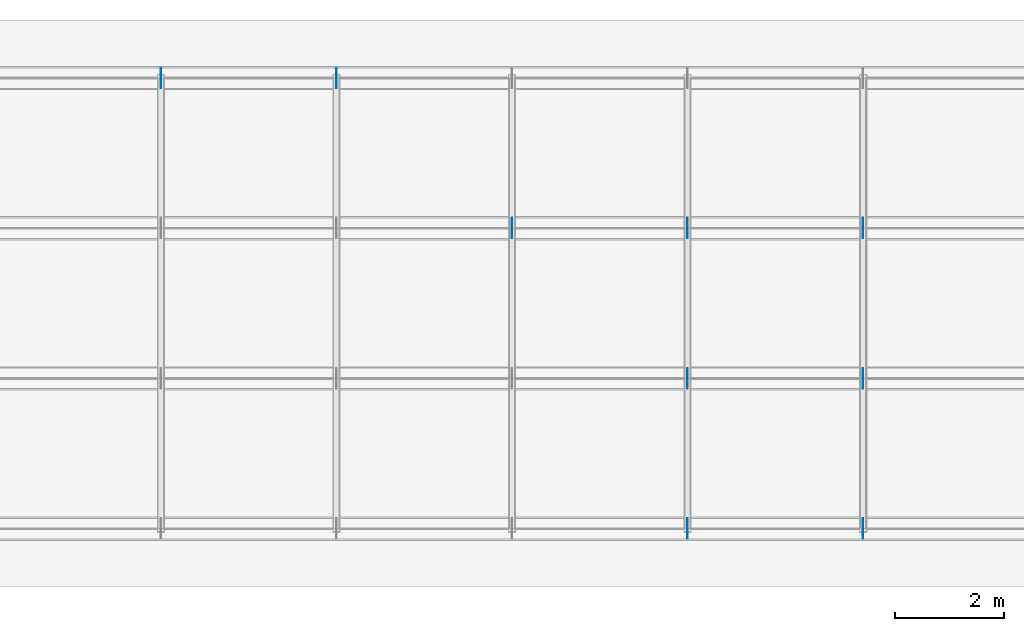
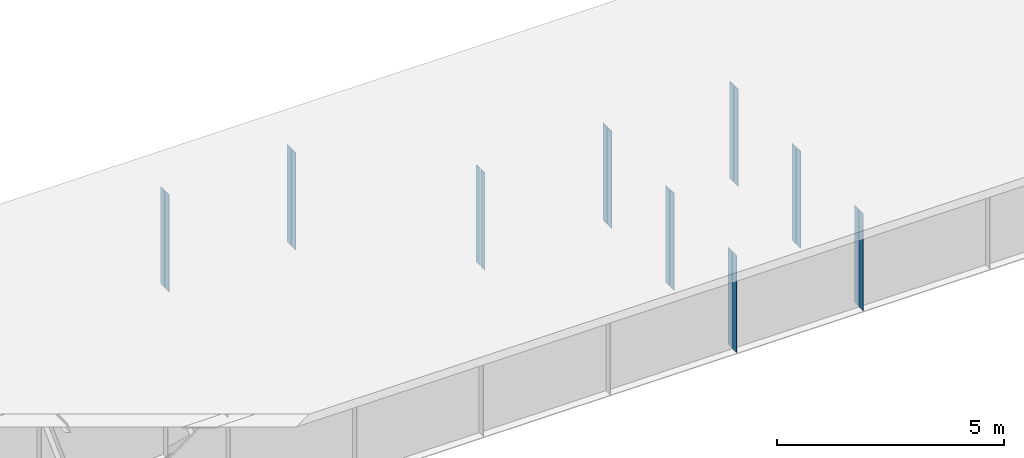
# One storey, part 10 of 13: 18 plates.
"""IFC4 building model written with IfcOpenShell, lengths in metres."""

import ifcopenshell
import ifcopenshell.guid

model = None  # the IFC model being written
_history = None  # IfcOwnerHistory: only IFC2X3 demands one
_inside = {}  # id of a spatial element -> (the spatial element, [elements in it])
_under = {}  # id of a project, library or spatial element -> (it, [spatial elements below it])
_declared = {}  # id of a project -> (the project, [libraries it declares])
_typed = {}  # id of a type object -> (the type object, [elements of that type])
_made_of = {}  # id of a material, layer set ... -> (it, [elements and type objects made of it])


def new_model(schema):
    """Start an empty IFC model of exactly this schema.

    Asked for "IFC4X3", IfcOpenShell would pick the latest addendum, in which some entities
    have other attributes; the version numbers below select the first issue.
    IFC2X3 requires an IfcOwnerHistory on every rooted entity: one is made here for all.
    """
    global model, _history
    if schema == "IFC4X3":
        model = ifcopenshell.file(schema_version=(4, 3, 0, 0))
    else:
        model = ifcopenshell.file(schema=schema)
    _inside.clear()
    _under.clear()
    _declared.clear()
    _typed.clear()
    _made_of.clear()
    _history = None
    if model.schema == "IFC2X3":
        org = make("IfcOrganization", Name="unknown")
        user = make(
            "IfcPersonAndOrganization",
            ThePerson=make("IfcPerson", FamilyName="unknown"),
            TheOrganization=org,
        )
        app = make(
            "IfcApplication",
            ApplicationDeveloper=org,
            Version="unknown",
            ApplicationFullName="unknown",
            ApplicationIdentifier="unknown",
        )
        _history = make(
            "IfcOwnerHistory",
            OwningUser=user,
            OwningApplication=app,
            ChangeAction="ADDED",
            CreationDate=0,
        )
    return model


def make(cls, **values):
    """One entity of the class cls with the attributes given. An attribute that is None is left unset."""
    return model.create_entity(
        cls, **{name: value for name, value in values.items() if value is not None}
    )


def rooted(cls, **values):
    """An entity with a GlobalId (a new one), such as an element, a storey or a relation."""
    return make(cls, GlobalId=ifcopenshell.guid.new(), OwnerHistory=_history, **values)


def si_unit(unit_type, name, prefix=None):
    """IfcSIUnit, for example si_unit("LENGTHUNIT", "METRE", prefix="MILLI")."""
    return make("IfcSIUnit", UnitType=unit_type, Prefix=prefix, Name=name)


def assignment(units):
    """IfcUnitAssignment: the units of a project."""
    return None if units is None else make("IfcUnitAssignment", Units=units)


def point(xyz):
    """IfcCartesianPoint."""
    return None if xyz is None else make("IfcCartesianPoint", Coordinates=xyz)


def direction(xyz):
    """IfcDirection."""
    return None if xyz is None else make("IfcDirection", DirectionRatios=xyz)


def frame(location, z_axis=None, x_axis=None):
    """IfcAxis2Placement3D, a coordinate frame: its origin and axes. An axis left out is left unset."""
    return make(
        "IfcAxis2Placement3D",
        Location=point(location),
        Axis=direction(z_axis),
        RefDirection=direction(x_axis),
    )


def frame_2d(location, x_axis=None):
    """IfcAxis2Placement2D, a coordinate frame in the plane: its origin and x axis."""
    return make(
        "IfcAxis2Placement2D", Location=point(location), RefDirection=direction(x_axis)
    )


def origin():
    """The frame at (0, 0, 0) with its axes left unset."""
    return frame((0.0, 0.0, 0.0))


def origin_with_axes():
    """The frame at (0, 0, 0) with the z axis (0, 0, 1) and the x axis (1, 0, 0) written out."""
    return frame((0.0, 0.0, 0.0), z_axis=(0.0, 0.0, 1.0), x_axis=(1.0, 0.0, 0.0))


def origin_2d_with_axis():
    """The frame at (0, 0) in the plane with the x axis (1, 0) written out."""
    return frame_2d((0.0, 0.0), x_axis=(1.0, 0.0))


def place(relative_to, where):
    """IfcLocalPlacement: puts the frame where relative to a parent placement (None: the world)."""
    return make(
        "IfcLocalPlacement", PlacementRelTo=relative_to, RelativePlacement=where
    )


def context(
    kind, dimensions, precision=None, world=None, true_north=None, identifier=None
):
    """IfcGeometricRepresentationContext, for example the 3D "Model" context."""
    return make(
        "IfcGeometricRepresentationContext",
        ContextIdentifier=identifier,
        ContextType=kind,
        CoordinateSpaceDimension=dimensions,
        Precision=precision,
        WorldCoordinateSystem=world,
        TrueNorth=true_north,
    )


def subcontext(parent, identifier, kind, view, scale=None):
    """IfcGeometricRepresentationSubContext, for example "Body" below "Model"."""
    return make(
        "IfcGeometricRepresentationSubContext",
        ContextIdentifier=identifier,
        ContextType=kind,
        ParentContext=parent,
        TargetScale=scale,
        TargetView=view,
    )


def project(units=None, contexts=None):
    """IfcProject with its units and contexts."""
    return rooted(
        "IfcProject",
        Name="project",
        RepresentationContexts=contexts,
        UnitsInContext=assignment(units),
    )


def spatial(cls, under=None, at=None, **own):
    """A site, building, storey or space (cls), placed at a placement, below another one or the project."""
    s = rooted(cls, ObjectPlacement=at, **own)
    if under is not None:
        _under.setdefault(under.id(), (under, []))[1].append(s)
    return s


def profile(cls, at=None, kind="AREA", **sizes):
    """A parametric profile (cls). Its sizes go by their IFC names, for example OverallWidth=200.0."""
    return make(cls, ProfileType=kind, Position=at, **sizes)


def rectangle(**sizes):
    """IfcRectangleProfileDef."""
    return profile("IfcRectangleProfileDef", **sizes)


def extrude(swept, where, along, depth):
    """IfcExtrudedAreaSolid: the profile swept, set in the frame where, extruded along a direction by depth."""
    return make(
        "IfcExtrudedAreaSolid",
        SweptArea=swept,
        Position=where,
        ExtrudedDirection=direction(along),
        Depth=depth,
    )


def shape(context_of_items, identifier, shape_type, items):
    """IfcShapeRepresentation: the items that make up one representation, for example the "Body"."""
    return make(
        "IfcShapeRepresentation",
        ContextOfItems=context_of_items,
        RepresentationIdentifier=identifier,
        RepresentationType=shape_type,
        Items=items,
    )


def made_of(thing, what):
    """Note that an element or type object is made of a material, layer set ...; save() writes the relation."""
    if what is not None:
        _made_of.setdefault(what.id(), (what, []))[1].append(thing)
    return thing


def element(
    cls,
    number,
    at=None,
    inside=None,
    cuts=None,
    type_object=None,
    material=None,
    context=None,
    identifier="Body",
    shape_type=None,
    held_by="IfcProductDefinitionShape",
    body=None,
    shapes=None,
    **own,
):
    """One element of the class cls, such as IfcWall. Its Tag is "e" and its number.

    at: its placement. inside: the storey or other place that contains it. cuts: it is an
    opening in that element (IfcRelVoidsElement). A single representation is given by context,
    identifier, shape_type and body (its items); several are given by shapes. held_by: the class
    of the entity that holds the representations. save() writes the other relations.
    """
    e = rooted(cls, Tag="e%d" % number, ObjectPlacement=at, **own)
    if body is not None:
        shapes = [shape(context, identifier, shape_type, body)]
    if shapes is not None:
        e.Representation = make(held_by, Representations=shapes)
    if inside is not None:
        _inside.setdefault(inside.id(), (inside, []))[1].append(e)
    if cuts is not None:
        rooted(
            "IfcRelVoidsElement", RelatingBuildingElement=cuts, RelatedOpeningElement=e
        )
    if type_object is not None:
        _typed.setdefault(type_object.id(), (type_object, []))[1].append(e)
    return made_of(e, material)


def aggregate(whole, parts):
    """IfcRelAggregates: a whole, such as a stair, and the parts it consists of."""
    return rooted("IfcRelAggregates", RelatingObject=whole, RelatedObjects=parts)


def save(model, path):
    """Write the relations noted so far, then the file.

    IfcRelAggregates (storeys below a building ...), IfcRelContainedInSpatialStructure (elements
    in a storey), IfcRelDefinesByType, IfcRelAssociatesMaterial and IfcRelDeclares: one each for
    every whole, place, type object, material and project.
    """
    for whole, parts in _under.values():
        aggregate(whole, parts)
    for where, things in _inside.values():
        rooted(
            "IfcRelContainedInSpatialStructure",
            RelatedElements=things,
            RelatingStructure=where,
        )
    for kind, things in _typed.values():
        rooted("IfcRelDefinesByType", RelatedObjects=things, RelatingType=kind)
    for what, things in _made_of.values():
        rooted("IfcRelAssociatesMaterial", RelatedObjects=things, RelatingMaterial=what)
    for by, libraries in _declared.values():
        rooted("IfcRelDeclares", RelatingContext=by, RelatedDefinitions=libraries)
    model.write(path)


model = new_model("IFC4")

# Units and contexts
model_context = context("Model", 3, precision=1e-05, world=origin())
body_context = subcontext(model_context, "Body", "Model", "MODEL_VIEW")
ifc_project = project(units=[si_unit("LENGTHUNIT", "METRE"), si_unit("AREAUNIT", "SQUARE_METRE"), si_unit("VOLUMEUNIT", "CUBIC_METRE"), si_unit("PLANEANGLEUNIT", "RADIAN")], contexts=[model_context])

# Site, building, storey
site_placement = place(None, origin_with_axes())
site = spatial("IfcSite", under=ifc_project, at=site_placement, Name="Default Site")
building_placement = place(site_placement, origin_with_axes())
building = spatial("IfcBuilding", under=site, at=building_placement, Name="Bridge Structure")
storey_placement = place(building_placement, origin_with_axes())
storey = spatial("IfcBuildingStorey", under=building, at=storey_placement, Name="Superstructure")

# Plates
for number, where, z_axis, x_axis, name in (
    (1, (25.712, -4.02575, -1.305), (0.0, 0.0, 1.0), (1.0, 0.0, 0.0), "Intermediate Stiffener 1"),
    (2, (25.712, -4.2242500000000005, -1.305), (0.0, 0.0, 1.0), (1.0, 0.0, 0.0), "Intermediate Stiffener 1"),
    (3, (28.926000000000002, -4.02575, -1.305), (0.0, 0.0, 1.0), (1.0, 0.0, 0.0), "Intermediate Stiffener 1"),
    (4, (28.926000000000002, -4.2242500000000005, -1.305), (0.0, 0.0, 1.0), (1.0, 0.0, 0.0), "Intermediate Stiffener 1"),
    (5, (25.712, -1.27575, -1.305), (0.0, 0.0, 1.0), (1.0, 0.0, 0.0), "Intermediate Stiffener 2"),
    (6, (25.712, -1.47425, -1.305), (0.0, 0.0, 1.0), (1.0, 0.0, 0.0), "Intermediate Stiffener 2"),
    (7, (28.926000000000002, -1.27575, -1.305), (0.0, 0.0, 1.0), (1.0, 0.0, 0.0), "Intermediate Stiffener 2"),
    (8, (28.926000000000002, -1.47425, -1.305), (0.0, 0.0, 1.0), (1.0, 0.0, 0.0), "Intermediate Stiffener 2"),
    (9, (22.498, 1.47425, -1.305), (0.0, 0.0, 1.0), (1.0, 0.0, 0.0), "Intermediate Stiffener 3"),
    (10, (22.498, 1.27575, -1.305), (0.0, 0.0, 1.0), (1.0, 0.0, 0.0), "Intermediate Stiffener 3"),
    (11, (25.712, 1.47425, -1.305), (0.0, 0.0, 1.0), (1.0, 0.0, 0.0), "Intermediate Stiffener 3"),
    (12, (25.712, 1.27575, -1.305), (0.0, 0.0, 1.0), (1.0, 0.0, 0.0), "Intermediate Stiffener 3"),
    (13, (28.926000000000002, 1.47425, -1.305), (0.0, 0.0, 1.0), (1.0, 0.0, 0.0), "Intermediate Stiffener 3"),
    (14, (28.926000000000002, 1.27575, -1.305), (0.0, 0.0, 1.0), (1.0, 0.0, 0.0), "Intermediate Stiffener 3"),
    (15, (16.07, 4.2242500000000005, -1.305), (0.0, 0.0, 1.0), (1.0, 0.0, 0.0), "Intermediate Stiffener 4"),
    (16, (16.07, 4.02575, -1.305), (0.0, 0.0, 1.0), (1.0, 0.0, 0.0), "Intermediate Stiffener 4"),
    (17, (19.284, 4.2242500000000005, -1.305), (0.0, 0.0, 1.0), (1.0, 0.0, 0.0), "Intermediate Stiffener 4"),
    (18, (19.284, 4.02575, -1.305), (0.0, 0.0, 1.0), (1.0, 0.0, 0.0), "Intermediate Stiffener 4"),
):
    element("IfcPlate", number, at=place(storey_placement, frame(where, z_axis=z_axis, x_axis=x_axis)), inside=storey, Name=name, context=body_context, shape_type="SweptSolid", body=[
        extrude(rectangle(XDim=0.012, YDim=0.1765, at=origin_2d_with_axis()), origin_with_axes(), (0.0, 0.0, 1.0), 2.61),
    ])

save(model, "model.ifc")
